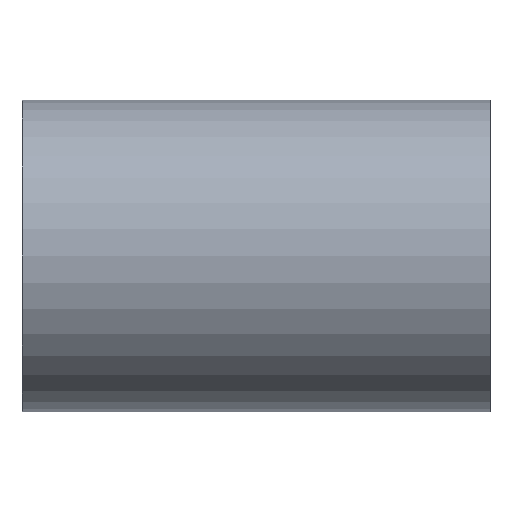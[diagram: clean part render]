
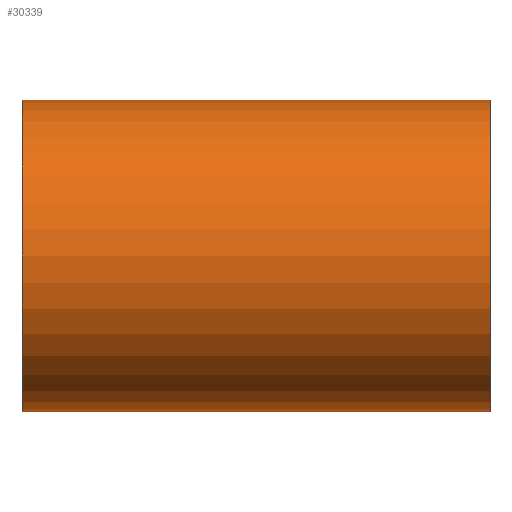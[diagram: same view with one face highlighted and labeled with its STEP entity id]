
A CAD part, left-side view. The second image highlights one B-rep face of the part: STEP entity #30339.
In plain terms, the highlighted cylindrical face has radius 15.975 mm (diameter 31.95 mm), a partial arc.
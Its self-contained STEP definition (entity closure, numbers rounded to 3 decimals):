
#2008 = DIRECTION ( 'NONE',  ( 0., -1., 0. ) ) ;
#2857 = CYLINDRICAL_SURFACE ( 'NONE', #23127, 15.975 ) ;
#3598 = ORIENTED_EDGE ( 'NONE', *, *, #10595, .F. ) ;
#4415 = CIRCLE ( 'NONE', #25312, 15.975 ) ;
#4739 = EDGE_CURVE ( 'NONE', #13530, #4772, #14177, .T. ) ;
#4772 = VERTEX_POINT ( 'NONE', #42006 ) ;
#5732 = ORIENTED_EDGE ( 'NONE', *, *, #4739, .F. ) ;
#10595 = EDGE_CURVE ( 'NONE', #4772, #14718, #26938, .T. ) ;
#11123 = CARTESIAN_POINT ( 'NONE',  ( 0., 48., 0. ) ) ;
#11132 = CARTESIAN_POINT ( 'NONE',  ( 0., 0., -15.975 ) ) ;
#13530 = VERTEX_POINT ( 'NONE', #39536 ) ;
#13843 = EDGE_CURVE ( 'NONE', #44786, #14718, #4415, .T. ) ;
#14177 = CIRCLE ( 'NONE', #38869, 15.975 ) ;
#14718 = VERTEX_POINT ( 'NONE', #34854 ) ;
#15095 = DIRECTION ( 'NONE',  ( 0., 0., -1. ) ) ;
#15439 = DIRECTION ( 'NONE',  ( 0., -1., 0. ) ) ;
#22074 = EDGE_LOOP ( 'NONE', ( #3598, #5732, #29549, #36801 ) ) ;
#22987 = CARTESIAN_POINT ( 'NONE',  ( 0., 48., 0. ) ) ;
#23127 = AXIS2_PLACEMENT_3D ( 'NONE', #11123, #15439, #15095 ) ;
#23911 = FACE_OUTER_BOUND ( 'NONE', #22074, .T. ) ;
#25312 = AXIS2_PLACEMENT_3D ( 'NONE', #46314, #38875, #46807 ) ;
#26475 = DIRECTION ( 'NONE',  ( 0., 1., 0. ) ) ;
#26938 = LINE ( 'NONE', #37413, #33705 ) ;
#29549 = ORIENTED_EDGE ( 'NONE', *, *, #31368, .T. ) ;
#30339 = ADVANCED_FACE ( 'NONE', ( #23911 ), #2857, .T. ) ;
#31368 = EDGE_CURVE ( 'NONE', #13530, #44786, #41136, .T. ) ;
#33705 = VECTOR ( 'NONE', #2008, 1000. ) ;
#34214 = DIRECTION ( 'NONE',  ( 0., 0., 1. ) ) ;
#34854 = CARTESIAN_POINT ( 'NONE',  ( 0., 0., 15.975 ) ) ;
#36371 = DIRECTION ( 'NONE',  ( 0., -1., 0. ) ) ;
#36801 = ORIENTED_EDGE ( 'NONE', *, *, #13843, .T. ) ;
#37413 = CARTESIAN_POINT ( 'NONE',  ( 0., 48., 15.975 ) ) ;
#38869 = AXIS2_PLACEMENT_3D ( 'NONE', #22987, #26475, #34214 ) ;
#38875 = DIRECTION ( 'NONE',  ( 0., 1., 0. ) ) ;
#39536 = CARTESIAN_POINT ( 'NONE',  ( 0., 48., -15.975 ) ) ;
#41136 = LINE ( 'NONE', #44010, #47369 ) ;
#42006 = CARTESIAN_POINT ( 'NONE',  ( 0., 48., 15.975 ) ) ;
#44010 = CARTESIAN_POINT ( 'NONE',  ( 0., 48., -15.975 ) ) ;
#44786 = VERTEX_POINT ( 'NONE', #11132 ) ;
#46314 = CARTESIAN_POINT ( 'NONE',  ( 0., 0., 0. ) ) ;
#46807 = DIRECTION ( 'NONE',  ( 0., 0., 1. ) ) ;
#47369 = VECTOR ( 'NONE', #36371, 1000. ) ;
